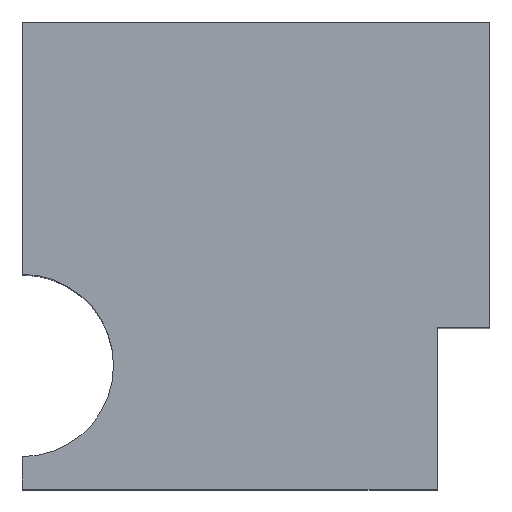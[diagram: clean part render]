
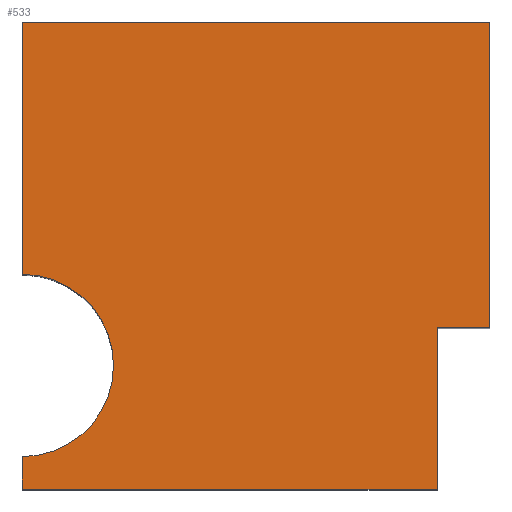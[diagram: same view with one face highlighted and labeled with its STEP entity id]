
A CAD part, top view. The second image highlights one B-rep face of the part: STEP entity #533.
In plain terms, the highlighted planar face has unit normal (0, 0, 1).
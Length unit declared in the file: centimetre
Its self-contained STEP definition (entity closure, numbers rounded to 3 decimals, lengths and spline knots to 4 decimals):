
#3 = EDGE_CURVE ( 'NONE', #400, #96, #499, .T. ) ;
#10 = EDGE_CURVE ( 'NONE', #364, #484, #632, .T. ) ;
#23 = CARTESIAN_POINT ( 'NONE',  ( 195.0368, 264.8827, 1000. ) ) ;
#26 = EDGE_CURVE ( 'NONE', #427, #472, #86, .T. ) ;
#40 = AXIS2_PLACEMENT_3D ( 'NONE', #486, #136, #446 ) ;
#59 = LINE ( 'NONE', #623, #459 ) ;
#61 = CARTESIAN_POINT ( 'NONE',  ( 887.6798, 0., 1000. ) ) ;
#63 = CARTESIAN_POINT ( 'NONE',  ( 0., 1000., 1000. ) ) ;
#64 = DIRECTION ( 'NONE',  ( 0., -1., 0. ) ) ;
#74 = ORIENTED_EDGE ( 'NONE', *, *, #440, .T. ) ;
#86 = LINE ( 'NONE', #553, #265 ) ;
#87 = PLANE ( 'NONE',  #40 ) ;
#96 = VERTEX_POINT ( 'NONE', #311 ) ;
#128 = EDGE_CURVE ( 'NONE', #674, #96, #249, .T. ) ;
#136 = DIRECTION ( 'NONE',  ( 0., 0., 1. ) ) ;
#173 = ORIENTED_EDGE ( 'NONE', *, *, #128, .T. ) ;
#174 = CARTESIAN_POINT ( 'NONE',  ( 887.6798, 0., 1000. ) ) ;
#178 = VECTOR ( 'NONE', #570, 100. ) ;
#189 = VECTOR ( 'NONE', #275, 100. ) ;
#201 = VERTEX_POINT ( 'NONE', #551 ) ;
#203 = CARTESIAN_POINT ( 'NONE',  ( 887.6798, 345.3783, 1000. ) ) ;
#206 = CARTESIAN_POINT ( 'NONE',  ( 0., 264.8827, 1000. ) ) ;
#212 = AXIS2_PLACEMENT_3D ( 'NONE', #206, #631, #214 ) ;
#214 = DIRECTION ( 'NONE',  ( 1., 0., 0. ) ) ;
#249 = LINE ( 'NONE', #629, #378 ) ;
#252 = CIRCLE ( 'NONE', #425, 195.0368 ) ;
#256 = CARTESIAN_POINT ( 'NONE',  ( 1000., 1000., 1000. ) ) ;
#262 = DIRECTION ( 'NONE',  ( -1., 0., 0. ) ) ;
#263 = DIRECTION ( 'NONE',  ( 0., 1., 0. ) ) ;
#265 = VECTOR ( 'NONE', #462, 100. ) ;
#268 = ORIENTED_EDGE ( 'NONE', *, *, #26, .T. ) ;
#270 = VERTEX_POINT ( 'NONE', #286 ) ;
#275 = DIRECTION ( 'NONE',  ( 0., 1., 0. ) ) ;
#286 = CARTESIAN_POINT ( 'NONE',  ( 1000., 1000., 1000. ) ) ;
#287 = CARTESIAN_POINT ( 'NONE',  ( 0., 0., 1000. ) ) ;
#297 = ORIENTED_EDGE ( 'NONE', *, *, #10, .T. ) ;
#305 = CARTESIAN_POINT ( 'NONE',  ( 1000., 345.3783, 1000. ) ) ;
#311 = CARTESIAN_POINT ( 'NONE',  ( 0., 459.9195, 1000. ) ) ;
#325 = EDGE_CURVE ( 'NONE', #472, #270, #476, .T. ) ;
#333 = CARTESIAN_POINT ( 'NONE',  ( 0., 264.8827, 1000. ) ) ;
#364 = VERTEX_POINT ( 'NONE', #577 ) ;
#368 = ORIENTED_EDGE ( 'NONE', *, *, #3, .F. ) ;
#378 = VECTOR ( 'NONE', #572, 100. ) ;
#400 = VERTEX_POINT ( 'NONE', #23 ) ;
#415 = VECTOR ( 'NONE', #263, 100. ) ;
#425 = AXIS2_PLACEMENT_3D ( 'NONE', #333, #442, #548 ) ;
#426 = LINE ( 'NONE', #174, #189 ) ;
#427 = VERTEX_POINT ( 'NONE', #203 ) ;
#440 = EDGE_CURVE ( 'NONE', #201, #364, #59, .T. ) ;
#442 = DIRECTION ( 'NONE',  ( 0., 0., 1. ) ) ;
#446 = DIRECTION ( 'NONE',  ( 1., 0., 0. ) ) ;
#459 = VECTOR ( 'NONE', #64, 100. ) ;
#462 = DIRECTION ( 'NONE',  ( 1., 0., 0. ) ) ;
#472 = VERTEX_POINT ( 'NONE', #305 ) ;
#476 = LINE ( 'NONE', #256, #415 ) ;
#477 = ORIENTED_EDGE ( 'NONE', *, *, #492, .T. ) ;
#484 = VERTEX_POINT ( 'NONE', #61 ) ;
#486 = CARTESIAN_POINT ( 'NONE',  ( 0., 0., 1000. ) ) ;
#487 = EDGE_LOOP ( 'NONE', ( #536, #74, #297, #646, #268, #584, #477, #173, #368 ) ) ;
#492 = EDGE_CURVE ( 'NONE', #270, #674, #524, .T. ) ;
#499 = CIRCLE ( 'NONE', #212, 195.0368 ) ;
#524 = LINE ( 'NONE', #63, #622 ) ;
#533 = ADVANCED_FACE ( 'NONE', ( #611 ), #87, .T. ) ;
#536 = ORIENTED_EDGE ( 'NONE', *, *, #600, .F. ) ;
#548 = DIRECTION ( 'NONE',  ( 1., 0., 0. ) ) ;
#551 = CARTESIAN_POINT ( 'NONE',  ( 0., 69.8458, 1000. ) ) ;
#553 = CARTESIAN_POINT ( 'NONE',  ( 887.6798, 345.3783, 1000. ) ) ;
#570 = DIRECTION ( 'NONE',  ( 1., 0., 0. ) ) ;
#572 = DIRECTION ( 'NONE',  ( 0., -1., 0. ) ) ;
#577 = CARTESIAN_POINT ( 'NONE',  ( 0., 0., 1000. ) ) ;
#581 = EDGE_CURVE ( 'NONE', #484, #427, #426, .T. ) ;
#584 = ORIENTED_EDGE ( 'NONE', *, *, #325, .T. ) ;
#600 = EDGE_CURVE ( 'NONE', #201, #400, #252, .T. ) ;
#611 = FACE_OUTER_BOUND ( 'NONE', #487, .T. ) ;
#622 = VECTOR ( 'NONE', #262, 100. ) ;
#623 = CARTESIAN_POINT ( 'NONE',  ( 0., 1000., 1000. ) ) ;
#629 = CARTESIAN_POINT ( 'NONE',  ( 0., 1000., 1000. ) ) ;
#631 = DIRECTION ( 'NONE',  ( 0., 0., 1. ) ) ;
#632 = LINE ( 'NONE', #287, #178 ) ;
#646 = ORIENTED_EDGE ( 'NONE', *, *, #581, .T. ) ;
#663 = CARTESIAN_POINT ( 'NONE',  ( 0., 1000., 1000. ) ) ;
#674 = VERTEX_POINT ( 'NONE', #663 ) ;
